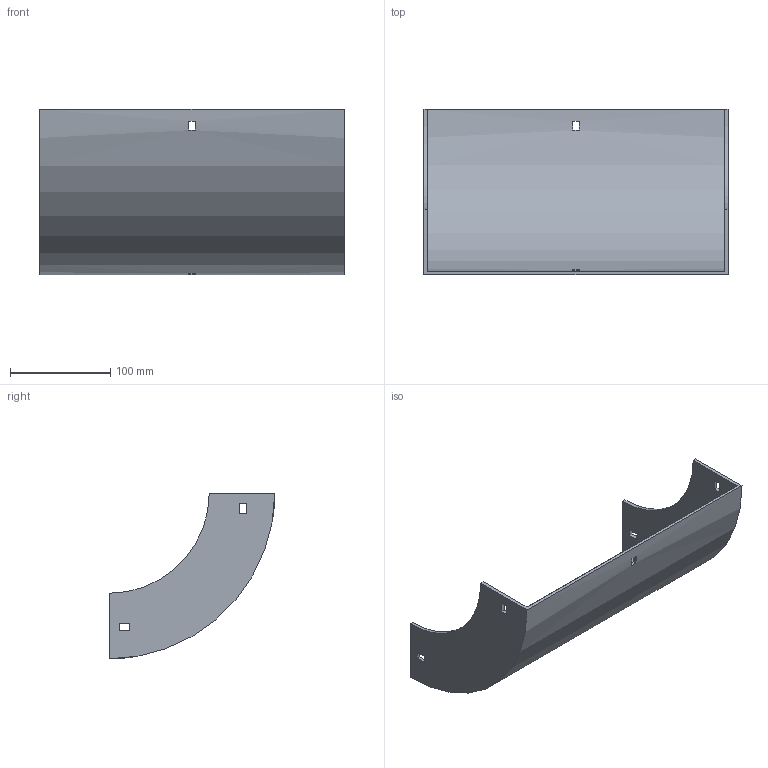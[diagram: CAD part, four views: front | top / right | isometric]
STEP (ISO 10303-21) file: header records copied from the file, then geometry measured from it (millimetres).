
FILE_DESCRIPTION (( 'STEP AP214' ), '1' );
FILE_NAME ('30B1H300.step', '2025-02-21T09:50:25', ( '' ), ( '' ), 'SwSTEP 2.0', 'SolidWorks 2023', '' );
FILE_SCHEMA (( 'AUTOMOTIVE_DESIGN' ));
Length unit declared in the file: millimetre
Products named in the file (1): 30B1H300
Bounding box: 304 x 165.5 x 165.5 mm (x, y, z)
Volume: 361594.2 mm3; surface area: 211434.2 mm2
Topology: 1 solids, 1 shells, 34 faces, 96 edges, 64 vertices
Faces by surface type: plane 30, cylinder 4
Entity records: 1143 total; most frequent: CARTESIAN_POINT 195, ORIENTED_EDGE 192, DIRECTION 182, EDGE_CURVE 96, VECTOR 80, LINE 80, VERTEX_POINT 64, AXIS2_PLACEMENT_3D 51
